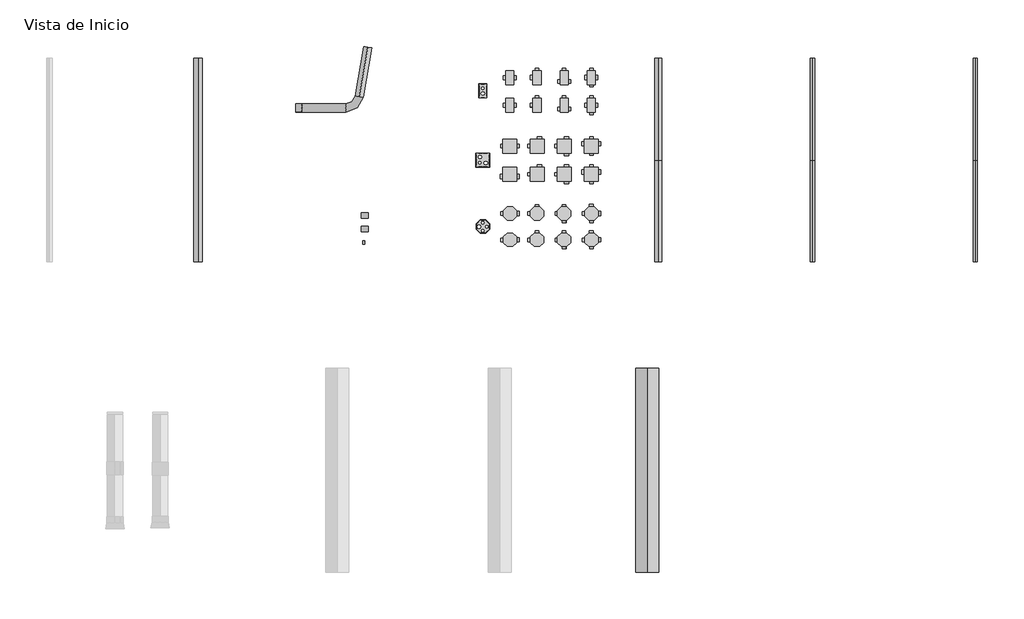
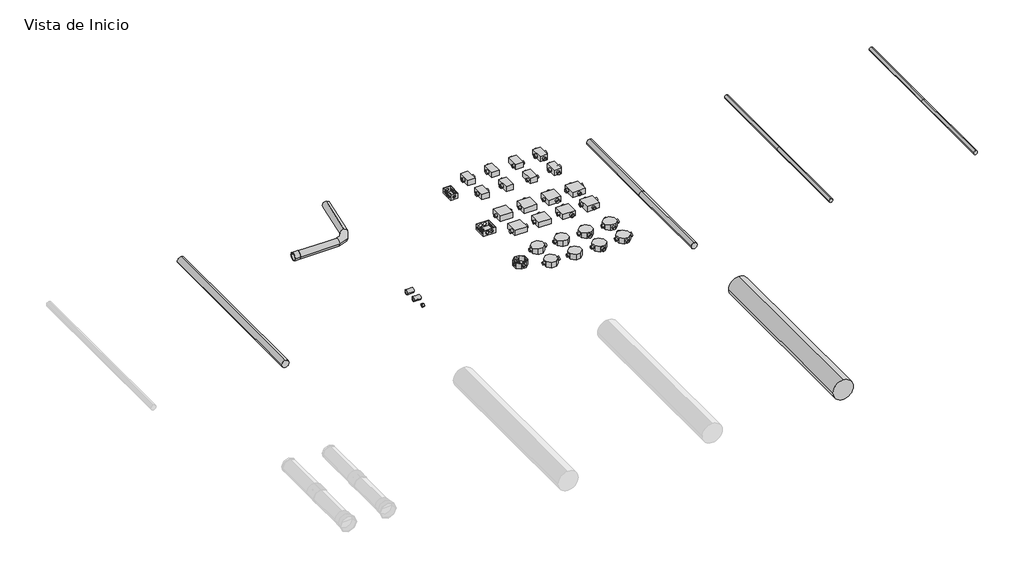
# One storey, part 2 of 2: 67 cable carrier fittings, 31 pipe fittings, 3 pipe segments, 2 cable carrier segments.
"""IFC4 building model written with IfcOpenShell, lengths in millimetres."""

from ifc_helpers import new_model, si_unit, point, frame, frame_2d, origin, place, context, project, spatial, circle_curve, trimmed, segment, composite_curve, outline, extrude, transform, mapped, element, save
from ifc_brep_helpers import plane_surface, cylinder_surface, advanced_brep
from components import sch40_a225065a, sch40_1c53443b, sch40_14fc688d, sch40_78924ee8, tl_b9d03b8a, sch40_e715ed77, sch40_e125807a, sch40_0bdad339, sch40_e9edfee1, sch40_529ea7d7, sch40_db8eccb7, sch40_516e4f61, sch40_2f5201ad, sch40_504ce7d9, sch40_9a32e9d7, tl_ba489bf2, tl_a7b347dc, tl_5f5f7a51, tl_10c20af0, tl_4cd5a705

model = new_model("IFC4")

# Units and contexts
model_context = context("Model", 3, world=origin())
ifc_project = project(units=[si_unit("LENGTHUNIT", "METRE", prefix="MILLI")], contexts=[model_context])

# Site, building, storey
site = spatial("IfcSite", under=ifc_project)
building = spatial("IfcBuilding", under=site)
storey = spatial("IfcBuildingStorey", under=building, Name="Vista de Inicio", Elevation=0.0)

# Cable carrier fittings
placement = place(None, origin())
sch40_shape = sch40_a225065a(model_context)
element("IfcCableCarrierFitting", 1, ObjectType="PavcoWavin_ConduitFittings_ZnoUsarAdaptadorTerminal : SCH40", at=placement, inside=storey, context=model_context, shape_type="MappedRepresentation", body=[
    mapped(sch40_shape, transform((6956.0403989, 2395.4875154, 0.0), x_axis=(-1.0, 0.0, 0.0), y_axis=(0.0, -1.0, 0.0), z_axis=(0.0, 0.0, 1.0))),
])
element("IfcCableCarrierFitting", 2, ObjectType="PavcoWavin_ConduitFittings_ZnoUsarAdaptadorTerminal : SCH40", at=placement, inside=storey, context=model_context, shape_type="MappedRepresentation", body=[
    mapped(sch40_shape, transform((7205.5403989, 2444.9875154, 0.0), x_axis=(0.0, 1.0, 0.0), y_axis=(-1.0, 0.0, 0.0), z_axis=(0.0, 0.0, 1.0))),
])
element("IfcCableCarrierFitting", 3, ObjectType="PavcoWavin_ConduitFittings_ZnoUsarAdaptadorTerminal : SCH40", at=placement, inside=storey, context=model_context, shape_type="MappedRepresentation", body=[
    mapped(sch40_shape, transform((7156.0403989, 2395.4875154, 0.0), x_axis=(-1.0, 0.0, 0.0), y_axis=(0.0, -1.0, 0.0), z_axis=(0.0, 0.0, 1.0))),
])
element("IfcCableCarrierFitting", 4, ObjectType="PavcoWavin_ConduitFittings_ZnoUsarAdaptadorTerminal : SCH40", at=placement, inside=storey, context=model_context, shape_type="MappedRepresentation", body=[
    mapped(sch40_shape, transform((7405.5403989, 2444.9875154, 0.0), x_axis=(0.0, 1.0, 0.0), y_axis=(-1.0, 0.0, 0.0), z_axis=(0.0, 0.0, 1.0))),
])
element("IfcCableCarrierFitting", 5, ObjectType="PavcoWavin_ConduitFittings_ZnoUsarAdaptadorTerminal : SCH40", at=placement, inside=storey, context=model_context, shape_type="MappedRepresentation", body=[
    mapped(sch40_shape, transform((7356.0403989, 2395.4875154, 0.0), x_axis=(-1.0, 0.0, 0.0), y_axis=(0.0, -1.0, 0.0), z_axis=(0.0, 0.0, 1.0))),
])
element("IfcCableCarrierFitting", 6, ObjectType="PavcoWavin_ConduitFittings_ZnoUsarAdaptadorTerminal : SCH40", at=placement, inside=storey, context=model_context, shape_type="MappedRepresentation", body=[
    mapped(sch40_shape, transform((7556.0403989, 2395.4875154, 0.0), x_axis=(-1.0, 0.0, 0.0), y_axis=(0.0, -1.0, 0.0), z_axis=(0.0, 0.0, 1.0))),
])
element("IfcCableCarrierFitting", 7, ObjectType="PavcoWavin_ConduitFittings_ZnoUsarAdaptadorTerminal : SCH40", at=placement, inside=storey, context=model_context, shape_type="MappedRepresentation", body=[
    mapped(sch40_shape, transform((7605.5403989, 2345.9875154, 0.0), x_axis=(0.0, -1.0, 0.0), y_axis=(1.0, 0.0, 0.0), z_axis=(0.0, 0.0, 1.0))),
])
element("IfcCableCarrierFitting", 8, ObjectType="PavcoWavin_ConduitFittings_ZnoUsarAdaptadorTerminal : SCH40", at=placement, inside=storey, context=model_context, shape_type="MappedRepresentation", body=[
    mapped(sch40_shape, transform((7153.9903989, 2892.7174318, 0.0), x_axis=(-1.0, 0.0, 0.0), y_axis=(0.0, -1.0, 0.0), z_axis=(0.0, 0.0, 1.0))),
])
element("IfcCableCarrierFitting", 9, ObjectType="PavcoWavin_ConduitFittings_ZnoUsarAdaptadorTerminal : SCH40", at=placement, inside=storey, context=model_context, shape_type="MappedRepresentation", body=[
    mapped(sch40_shape, transform((7353.9903989, 2892.7174318, 0.0), x_axis=(-1.0, 0.0, 0.0), y_axis=(0.0, -1.0, 0.0), z_axis=(0.0, 0.0, 1.0))),
])
element("IfcCableCarrierFitting", 10, ObjectType="PavcoWavin_ConduitFittings_ZnoUsarAdaptadorTerminal : SCH40", at=placement, inside=storey, context=model_context, shape_type="MappedRepresentation", body=[
    mapped(sch40_shape, transform((7605.5403989, 2841.1674318, 0.0), x_axis=(0.0, -1.0, 0.0), y_axis=(1.0, 0.0, 0.0), z_axis=(0.0, 0.0, 1.0))),
])
element("IfcCableCarrierFitting", 11, ObjectType="PavcoWavin_ConduitFittings_ZnoUsarAdaptadorTerminal : SCH40", at=placement, inside=storey, context=model_context, shape_type="MappedRepresentation", body=[
    mapped(sch40_shape, transform((7605.5403989, 2944.2674318, 0.0), x_axis=(0.0, 1.0, 0.0), y_axis=(-1.0, 0.0, 0.0), z_axis=(0.0, 0.0, 1.0))),
])
element("IfcCableCarrierFitting", 12, ObjectType="PavcoWavin_ConduitFittings_ZnoUsarAdaptadorTerminal : SCH40", at=placement, inside=storey, context=model_context, shape_type="MappedRepresentation", body=[
    mapped(sch40_shape, transform((7057.0903989, 2892.7174318, 0.0), x_axis=(1.0, 0.0, 0.0), y_axis=(0.0, 1.0, 0.0), z_axis=(0.0, 0.0, 1.0))),
])
element("IfcCableCarrierFitting", 13, ObjectType="PavcoWavin_ConduitFittings_ZnoUsarAdaptadorTerminal : SCH40", at=placement, inside=storey, context=model_context, shape_type="MappedRepresentation", body=[
    mapped(sch40_shape, transform((6953.9903989, 2892.7174318, 0.0), x_axis=(-1.0, 0.0, 0.0), y_axis=(0.0, -1.0, 0.0), z_axis=(0.0, 0.0, 1.0))),
])
element("IfcCableCarrierFitting", 14, ObjectType="PavcoWavin_ConduitFittings_ZnoUsarAdaptadorTerminal : SCH40", at=placement, inside=storey, context=model_context, shape_type="MappedRepresentation", body=[
    mapped(sch40_shape, transform((7405.5403989, 3449.0171975, 0.0), x_axis=(0.0, 1.0, 0.0), y_axis=(-1.0, 0.0, 0.0), z_axis=(0.0, 0.0, 1.0))),
])
element("IfcCableCarrierFitting", 15, ObjectType="PavcoWavin_ConduitFittings_ZnoUsarAdaptadorTerminal : SCH40", at=placement, inside=storey, context=model_context, shape_type="MappedRepresentation", body=[
    mapped(sch40_shape, transform((7435.5403989, 3369.5171975, 0.0), x_axis=(1.0, 0.0, 0.0), y_axis=(0.0, 1.0, 0.0), z_axis=(0.0, 0.0, 1.0))),
])
element("IfcCableCarrierFitting", 16, ObjectType="PavcoWavin_ConduitFittings_ZnoUsarAdaptadorTerminal : SCH40", at=placement, inside=storey, context=model_context, shape_type="MappedRepresentation", body=[
    mapped(sch40_shape, transform((7375.5403989, 3369.5171975, 0.0), x_axis=(-1.0, 0.0, 0.0), y_axis=(0.0, -1.0, 0.0), z_axis=(0.0, 0.0, 1.0))),
])
element("IfcCableCarrierFitting", 17, ObjectType="PavcoWavin_ConduitFittings_ZnoUsarAdaptadorTerminal : SCH40", at=placement, inside=storey, context=model_context, shape_type="MappedRepresentation", body=[
    mapped(sch40_shape, transform((7605.5403989, 3346.0171975, 0.0), x_axis=(0.0, -1.0, 0.0), y_axis=(1.0, 0.0, 0.0), z_axis=(0.0, 0.0, 1.0))),
])
element("IfcCableCarrierFitting", 18, ObjectType="PavcoWavin_ConduitFittings_ZnoUsarAdaptadorTerminal : SCH40", at=placement, inside=storey, context=model_context, shape_type="MappedRepresentation", body=[
    mapped(sch40_shape, transform((7605.5403989, 3449.0171975, 0.0), x_axis=(0.0, 1.0, 0.0), y_axis=(-1.0, 0.0, 0.0), z_axis=(0.0, 0.0, 1.0))),
])
sch40_2_shape = sch40_1c53443b(model_context)
element("IfcCableCarrierFitting", 19, ObjectType="PavcoWavin_ConduitFittings_ZnoUsarAdaptadorTerminal : SCH40", at=placement, inside=storey, context=model_context, shape_type="MappedRepresentation", body=[
    mapped(sch40_2_shape, transform((7055.0403989, 2395.4875154, 0.0), x_axis=(1.0, 0.0, 0.0), y_axis=(0.0, 1.0, 0.0), z_axis=(0.0, 0.0, 1.0))),
])
element("IfcCableCarrierFitting", 20, ObjectType="PavcoWavin_ConduitFittings_ZnoUsarAdaptadorTerminal : SCH40", at=placement, inside=storey, context=model_context, shape_type="MappedRepresentation", body=[
    mapped(sch40_2_shape, transform((7405.5403989, 2345.9875154, 0.0), x_axis=(0.0, -1.0, 0.0), y_axis=(1.0, 0.0, 0.0), z_axis=(0.0, 0.0, 1.0))),
])
element("IfcCableCarrierFitting", 21, ObjectType="PavcoWavin_ConduitFittings_ZnoUsarAdaptadorTerminal : SCH40", at=placement, inside=storey, context=model_context, shape_type="MappedRepresentation", body=[
    mapped(sch40_2_shape, transform((7655.0403989, 2395.4875154, 0.0), x_axis=(1.0, 0.0, 0.0), y_axis=(0.0, 1.0, 0.0), z_axis=(0.0, 0.0, 1.0))),
])
element("IfcCableCarrierFitting", 22, ObjectType="PavcoWavin_ConduitFittings_ZnoUsarAdaptadorTerminal : SCH40", at=placement, inside=storey, context=model_context, shape_type="MappedRepresentation", body=[
    mapped(sch40_2_shape, transform((7605.5403989, 2444.9875154, 0.0), x_axis=(0.0, 1.0, 0.0), y_axis=(-1.0, 0.0, 0.0), z_axis=(0.0, 0.0, 1.0))),
])
element("IfcCableCarrierFitting", 23, ObjectType="PavcoWavin_ConduitFittings_ZnoUsarAdaptadorTerminal : SCH40", at=placement, inside=storey, context=model_context, shape_type="MappedRepresentation", body=[
    mapped(sch40_2_shape, transform((7223.0403989, 2944.2674318, 0.0), x_axis=(0.0, 1.0, 0.0), y_axis=(-1.0, 0.0, 0.0), z_axis=(0.0, 0.0, 1.0))),
])
element("IfcCableCarrierFitting", 24, ObjectType="PavcoWavin_ConduitFittings_ZnoUsarAdaptadorTerminal : SCH40", at=placement, inside=storey, context=model_context, shape_type="MappedRepresentation", body=[
    mapped(sch40_2_shape, transform((7423.0403989, 2841.1674318, 0.0), x_axis=(0.0, -1.0, 0.0), y_axis=(1.0, 0.0, 0.0), z_axis=(0.0, 0.0, 1.0))),
])
element("IfcCableCarrierFitting", 25, ObjectType="PavcoWavin_ConduitFittings_ZnoUsarAdaptadorTerminal : SCH40", at=placement, inside=storey, context=model_context, shape_type="MappedRepresentation", body=[
    mapped(sch40_2_shape, transform((7423.0403989, 2944.2674318, 0.0), x_axis=(0.0, 1.0, 0.0), y_axis=(-1.0, 0.0, 0.0), z_axis=(0.0, 0.0, 1.0))),
])
element("IfcCableCarrierFitting", 26, ObjectType="PavcoWavin_ConduitFittings_ZnoUsarAdaptadorTerminal : SCH40", at=placement, inside=storey, context=model_context, shape_type="MappedRepresentation", body=[
    mapped(sch40_2_shape, transform((7657.0903989, 2910.2174318, 0.0), x_axis=(1.0, 0.0, 0.0), y_axis=(0.0, 1.0, 0.0), z_axis=(0.0, 0.0, 1.0))),
])
element("IfcCableCarrierFitting", 27, ObjectType="PavcoWavin_ConduitFittings_ZnoUsarAdaptadorTerminal : SCH40", at=placement, inside=storey, context=model_context, shape_type="MappedRepresentation", body=[
    mapped(sch40_2_shape, transform((7553.9903989, 2910.2174318, 0.0), x_axis=(-1.0, 0.0, 0.0), y_axis=(0.0, -1.0, 0.0), z_axis=(0.0, 0.0, 1.0))),
])
element("IfcCableCarrierFitting", 28, ObjectType="PavcoWavin_ConduitFittings_ZnoUsarAdaptadorTerminal : SCH40", at=placement, inside=storey, context=model_context, shape_type="MappedRepresentation", body=[
    mapped(sch40_2_shape, transform((7035.5403989, 3396.8674318, 0.0), x_axis=(1.0, 0.0, 0.0), y_axis=(0.0, 1.0, 0.0), z_axis=(0.0, 0.0, 1.0))),
])
element("IfcCableCarrierFitting", 29, ObjectType="PavcoWavin_ConduitFittings_ZnoUsarAdaptadorTerminal : SCH40", at=placement, inside=storey, context=model_context, shape_type="MappedRepresentation", body=[
    mapped(sch40_2_shape, transform((6975.5403989, 3396.8674318, 0.0), x_axis=(-1.0, 0.0, 0.0), y_axis=(0.0, -1.0, 0.0), z_axis=(0.0, 0.0, 1.0))),
])
element("IfcCableCarrierFitting", 30, ObjectType="PavcoWavin_ConduitFittings_ZnoUsarAdaptadorTerminal : SCH40", at=placement, inside=storey, context=model_context, shape_type="MappedRepresentation", body=[
    mapped(sch40_2_shape, transform((7635.5403989, 3397.5171975, 0.0), x_axis=(1.0, 0.0, 0.0), y_axis=(0.0, 1.0, 0.0), z_axis=(0.0, 0.0, 1.0))),
])
element("IfcCableCarrierFitting", 31, ObjectType="PavcoWavin_ConduitFittings_ZnoUsarAdaptadorTerminal : SCH40", at=placement, inside=storey, context=model_context, shape_type="MappedRepresentation", body=[
    mapped(sch40_2_shape, transform((7575.5403989, 3397.5171975, 0.0), x_axis=(-1.0, 0.0, 0.0), y_axis=(0.0, -1.0, 0.0), z_axis=(0.0, 0.0, 1.0))),
])
sch40_3_shape = sch40_14fc688d(model_context)
element("IfcCableCarrierFitting", 32, ObjectType="PavcoWavin_ConduitFittings_ZnoUsarAdaptadorTerminal : SCH40", at=placement, inside=storey, context=model_context, shape_type="MappedRepresentation", body=[
    mapped(sch40_3_shape, transform((7175.5403989, 3397.5171975, 0.0), x_axis=(-1.0, 0.0, 0.0), y_axis=(0.0, -1.0, 0.0), z_axis=(0.0, 0.0, 1.0))),
])
sch40_4_shape = sch40_78924ee8(model_context)
element("IfcCableCarrierFitting", 33, ObjectType="PavcoWavin_ConduitFittings_ZnoUsarAdaptadorTerminal : SCH40", at=placement, inside=storey, context=model_context, shape_type="MappedRepresentation", body=[
    mapped(sch40_4_shape, transform((7205.5403989, 3449.0171975, 0.0), x_axis=(0.0, 1.0, 0.0), y_axis=(-1.0, 0.0, 0.0), z_axis=(0.0, 0.0, 1.0))),
])
element("IfcCableCarrierFitting", 34, ObjectType="PavcoWavin_ConduitFittings_ZnoUsarAdaptadorTerminal : TL", at=placement, inside=storey, context=model_context, shape_type="MappedRepresentation", body=[
    mapped(sch40_shape, transform((6956.0403989, 2202.9237787, 0.0), x_axis=(-1.0, 0.0, 0.0), y_axis=(0.0, -1.0, 0.0), z_axis=(0.0, 0.0, 1.0))),
])
element("IfcCableCarrierFitting", 35, ObjectType="PavcoWavin_ConduitFittings_ZnoUsarAdaptadorTerminal : TL", at=placement, inside=storey, context=model_context, shape_type="MappedRepresentation", body=[
    mapped(sch40_shape, transform((7205.5403989, 2252.4237787, 0.0), x_axis=(0.0, 1.0, 0.0), y_axis=(-1.0, 0.0, 0.0), z_axis=(0.0, 0.0, 1.0))),
])
element("IfcCableCarrierFitting", 36, ObjectType="PavcoWavin_ConduitFittings_ZnoUsarAdaptadorTerminal : TL", at=placement, inside=storey, context=model_context, shape_type="MappedRepresentation", body=[
    mapped(sch40_shape, transform((7156.0403989, 2202.9237787, 0.0), x_axis=(-1.0, 0.0, 0.0), y_axis=(0.0, -1.0, 0.0), z_axis=(0.0, 0.0, 1.0))),
])
element("IfcCableCarrierFitting", 37, ObjectType="PavcoWavin_ConduitFittings_ZnoUsarAdaptadorTerminal : TL", at=placement, inside=storey, context=model_context, shape_type="MappedRepresentation", body=[
    mapped(sch40_shape, transform((7405.5403989, 2252.4237787, 0.0), x_axis=(0.0, 1.0, 0.0), y_axis=(-1.0, 0.0, 0.0), z_axis=(0.0, 0.0, 1.0))),
])
element("IfcCableCarrierFitting", 38, ObjectType="PavcoWavin_ConduitFittings_ZnoUsarAdaptadorTerminal : TL", at=placement, inside=storey, context=model_context, shape_type="MappedRepresentation", body=[
    mapped(sch40_shape, transform((7356.0403989, 2202.9237787, 0.0), x_axis=(-1.0, 0.0, 0.0), y_axis=(0.0, -1.0, 0.0), z_axis=(0.0, 0.0, 1.0))),
])
element("IfcCableCarrierFitting", 39, ObjectType="PavcoWavin_ConduitFittings_ZnoUsarAdaptadorTerminal : TL", at=placement, inside=storey, context=model_context, shape_type="MappedRepresentation", body=[
    mapped(sch40_shape, transform((7556.0403989, 2202.9237787, 0.0), x_axis=(-1.0, 0.0, 0.0), y_axis=(0.0, -1.0, 0.0), z_axis=(0.0, 0.0, 1.0))),
])
element("IfcCableCarrierFitting", 40, ObjectType="PavcoWavin_ConduitFittings_ZnoUsarAdaptadorTerminal : TL", at=placement, inside=storey, context=model_context, shape_type="MappedRepresentation", body=[
    mapped(sch40_shape, transform((7605.5403989, 2153.4237787, 0.0), x_axis=(0.0, -1.0, 0.0), y_axis=(1.0, 0.0, 0.0), z_axis=(0.0, 0.0, 1.0))),
])
element("IfcCableCarrierFitting", 41, ObjectType="PavcoWavin_ConduitFittings_ZnoUsarAdaptadorTerminal : TL", at=placement, inside=storey, context=model_context, shape_type="MappedRepresentation", body=[
    mapped(sch40_shape, transform((7153.9903989, 2685.4094925, 0.0), x_axis=(-1.0, 0.0, 0.0), y_axis=(0.0, -1.0, 0.0), z_axis=(0.0, 0.0, 1.0))),
])
element("IfcCableCarrierFitting", 42, ObjectType="PavcoWavin_ConduitFittings_ZnoUsarAdaptadorTerminal : TL", at=placement, inside=storey, context=model_context, shape_type="MappedRepresentation", body=[
    mapped(sch40_shape, transform((7353.9903989, 2685.4094925, 0.0), x_axis=(-1.0, 0.0, 0.0), y_axis=(0.0, -1.0, 0.0), z_axis=(0.0, 0.0, 1.0))),
])
element("IfcCableCarrierFitting", 43, ObjectType="PavcoWavin_ConduitFittings_ZnoUsarAdaptadorTerminal : TL", at=placement, inside=storey, context=model_context, shape_type="MappedRepresentation", body=[
    mapped(sch40_shape, transform((7605.5403989, 2633.8594925, 0.0), x_axis=(0.0, -1.0, 0.0), y_axis=(1.0, 0.0, 0.0), z_axis=(0.0, 0.0, 1.0))),
])
element("IfcCableCarrierFitting", 44, ObjectType="PavcoWavin_ConduitFittings_ZnoUsarAdaptadorTerminal : TL", at=placement, inside=storey, context=model_context, shape_type="MappedRepresentation", body=[
    mapped(sch40_shape, transform((7605.5403989, 2736.9594925, 0.0), x_axis=(0.0, 1.0, 0.0), y_axis=(-1.0, 0.0, 0.0), z_axis=(0.0, 0.0, 1.0))),
])
element("IfcCableCarrierFitting", 45, ObjectType="PavcoWavin_ConduitFittings_ZnoUsarAdaptadorTerminal : TL", at=placement, inside=storey, context=model_context, shape_type="MappedRepresentation", body=[
    mapped(sch40_shape, transform((7405.5403989, 3245.2693837, 0.0), x_axis=(0.0, 1.0, 0.0), y_axis=(-1.0, 0.0, 0.0), z_axis=(0.0, 0.0, 1.0))),
])
element("IfcCableCarrierFitting", 46, ObjectType="PavcoWavin_ConduitFittings_ZnoUsarAdaptadorTerminal : TL", at=placement, inside=storey, context=model_context, shape_type="MappedRepresentation", body=[
    mapped(sch40_shape, transform((7435.5403989, 3165.7693837, 0.0), x_axis=(1.0, 0.0, 0.0), y_axis=(0.0, 1.0, 0.0), z_axis=(0.0, 0.0, 1.0))),
])
element("IfcCableCarrierFitting", 47, ObjectType="PavcoWavin_ConduitFittings_ZnoUsarAdaptadorTerminal : TL", at=placement, inside=storey, context=model_context, shape_type="MappedRepresentation", body=[
    mapped(sch40_shape, transform((7375.5403989, 3165.7693837, 0.0), x_axis=(-1.0, 0.0, 0.0), y_axis=(0.0, -1.0, 0.0), z_axis=(0.0, 0.0, 1.0))),
])
element("IfcCableCarrierFitting", 48, ObjectType="PavcoWavin_ConduitFittings_ZnoUsarAdaptadorTerminal : TL", at=placement, inside=storey, context=model_context, shape_type="MappedRepresentation", body=[
    mapped(sch40_shape, transform((7605.5403989, 3142.2693837, 0.0), x_axis=(0.0, -1.0, 0.0), y_axis=(1.0, 0.0, 0.0), z_axis=(0.0, 0.0, 1.0))),
])
element("IfcCableCarrierFitting", 49, ObjectType="PavcoWavin_ConduitFittings_ZnoUsarAdaptadorTerminal : TL", at=placement, inside=storey, context=model_context, shape_type="MappedRepresentation", body=[
    mapped(sch40_shape, transform((7605.5403989, 3245.2693837, 0.0), x_axis=(0.0, 1.0, 0.0), y_axis=(-1.0, 0.0, 0.0), z_axis=(0.0, 0.0, 1.0))),
])
element("IfcCableCarrierFitting", 50, ObjectType="PavcoWavin_ConduitFittings_ZnoUsarAdaptadorTerminal : TL", at=placement, inside=storey, context=model_context, shape_type="MappedRepresentation", body=[
    mapped(sch40_2_shape, transform((7055.0403989, 2202.9237787, 0.0), x_axis=(1.0, 0.0, 0.0), y_axis=(0.0, 1.0, 0.0), z_axis=(0.0, 0.0, 1.0))),
])
element("IfcCableCarrierFitting", 51, ObjectType="PavcoWavin_ConduitFittings_ZnoUsarAdaptadorTerminal : TL", at=placement, inside=storey, context=model_context, shape_type="MappedRepresentation", body=[
    mapped(sch40_2_shape, transform((7405.5403989, 2153.4237787, 0.0), x_axis=(0.0, -1.0, 0.0), y_axis=(1.0, 0.0, 0.0), z_axis=(0.0, 0.0, 1.0))),
])
element("IfcCableCarrierFitting", 52, ObjectType="PavcoWavin_ConduitFittings_ZnoUsarAdaptadorTerminal : TL", at=placement, inside=storey, context=model_context, shape_type="MappedRepresentation", body=[
    mapped(sch40_2_shape, transform((7655.0403989, 2202.9237787, 0.0), x_axis=(1.0, 0.0, 0.0), y_axis=(0.0, 1.0, 0.0), z_axis=(0.0, 0.0, 1.0))),
])
element("IfcCableCarrierFitting", 53, ObjectType="PavcoWavin_ConduitFittings_ZnoUsarAdaptadorTerminal : TL", at=placement, inside=storey, context=model_context, shape_type="MappedRepresentation", body=[
    mapped(sch40_2_shape, transform((7605.5403989, 2252.4237787, 0.0), x_axis=(0.0, 1.0, 0.0), y_axis=(-1.0, 0.0, 0.0), z_axis=(0.0, 0.0, 1.0))),
])
element("IfcCableCarrierFitting", 54, ObjectType="PavcoWavin_ConduitFittings_ZnoUsarAdaptadorTerminal : TL", at=placement, inside=storey, context=model_context, shape_type="MappedRepresentation", body=[
    mapped(sch40_2_shape, transform((7223.0403989, 2736.9594925, 0.0), x_axis=(0.0, 1.0, 0.0), y_axis=(-1.0, 0.0, 0.0), z_axis=(0.0, 0.0, 1.0))),
])
element("IfcCableCarrierFitting", 55, ObjectType="PavcoWavin_ConduitFittings_ZnoUsarAdaptadorTerminal : TL", at=placement, inside=storey, context=model_context, shape_type="MappedRepresentation", body=[
    mapped(sch40_2_shape, transform((7423.0403989, 2633.8594925, 0.0), x_axis=(0.0, -1.0, 0.0), y_axis=(1.0, 0.0, 0.0), z_axis=(0.0, 0.0, 1.0))),
])
element("IfcCableCarrierFitting", 56, ObjectType="PavcoWavin_ConduitFittings_ZnoUsarAdaptadorTerminal : TL", at=placement, inside=storey, context=model_context, shape_type="MappedRepresentation", body=[
    mapped(sch40_2_shape, transform((7423.0403989, 2736.9594925, 0.0), x_axis=(0.0, 1.0, 0.0), y_axis=(-1.0, 0.0, 0.0), z_axis=(0.0, 0.0, 1.0))),
])
element("IfcCableCarrierFitting", 57, ObjectType="PavcoWavin_ConduitFittings_ZnoUsarAdaptadorTerminal : TL", at=placement, inside=storey, context=model_context, shape_type="MappedRepresentation", body=[
    mapped(sch40_2_shape, transform((7657.0903989, 2702.9094925, 0.0), x_axis=(1.0, 0.0, 0.0), y_axis=(0.0, 1.0, 0.0), z_axis=(0.0, 0.0, 1.0))),
])
element("IfcCableCarrierFitting", 58, ObjectType="PavcoWavin_ConduitFittings_ZnoUsarAdaptadorTerminal : TL", at=placement, inside=storey, context=model_context, shape_type="MappedRepresentation", body=[
    mapped(sch40_2_shape, transform((7553.9903989, 2702.9094925, 0.0), x_axis=(-1.0, 0.0, 0.0), y_axis=(0.0, -1.0, 0.0), z_axis=(0.0, 0.0, 1.0))),
])
element("IfcCableCarrierFitting", 59, ObjectType="PavcoWavin_ConduitFittings_ZnoUsarAdaptadorTerminal : TL", at=placement, inside=storey, context=model_context, shape_type="MappedRepresentation", body=[
    mapped(sch40_2_shape, transform((7057.0903989, 2667.9094925, 0.0), x_axis=(1.0, 0.0, 0.0), y_axis=(0.0, 1.0, 0.0), z_axis=(0.0, 0.0, 1.0))),
])
element("IfcCableCarrierFitting", 60, ObjectType="PavcoWavin_ConduitFittings_ZnoUsarAdaptadorTerminal : TL", at=placement, inside=storey, context=model_context, shape_type="MappedRepresentation", body=[
    mapped(sch40_2_shape, transform((6953.9903989, 2667.9094925, 0.0), x_axis=(-1.0, 0.0, 0.0), y_axis=(0.0, -1.0, 0.0), z_axis=(0.0, 0.0, 1.0))),
])
element("IfcCableCarrierFitting", 61, ObjectType="PavcoWavin_ConduitFittings_ZnoUsarAdaptadorTerminal : TL", at=placement, inside=storey, context=model_context, shape_type="MappedRepresentation", body=[
    mapped(sch40_2_shape, transform((7035.5403989, 3193.7693837, 0.0), x_axis=(1.0, 0.0, 0.0), y_axis=(0.0, 1.0, 0.0), z_axis=(0.0, 0.0, 1.0))),
])
element("IfcCableCarrierFitting", 62, ObjectType="PavcoWavin_ConduitFittings_ZnoUsarAdaptadorTerminal : TL", at=placement, inside=storey, context=model_context, shape_type="MappedRepresentation", body=[
    mapped(sch40_2_shape, transform((6975.5403989, 3193.7693837, 0.0), x_axis=(-1.0, 0.0, 0.0), y_axis=(0.0, -1.0, 0.0), z_axis=(0.0, 0.0, 1.0))),
])
element("IfcCableCarrierFitting", 63, ObjectType="PavcoWavin_ConduitFittings_ZnoUsarAdaptadorTerminal : TL", at=placement, inside=storey, context=model_context, shape_type="MappedRepresentation", body=[
    mapped(sch40_2_shape, transform((7635.5403989, 3193.7693837, 0.0), x_axis=(1.0, 0.0, 0.0), y_axis=(0.0, 1.0, 0.0), z_axis=(0.0, 0.0, 1.0))),
])
element("IfcCableCarrierFitting", 64, ObjectType="PavcoWavin_ConduitFittings_ZnoUsarAdaptadorTerminal : TL", at=placement, inside=storey, context=model_context, shape_type="MappedRepresentation", body=[
    mapped(sch40_2_shape, transform((7575.5403989, 3193.7693837, 0.0), x_axis=(-1.0, 0.0, 0.0), y_axis=(0.0, -1.0, 0.0), z_axis=(0.0, 0.0, 1.0))),
])
tl_shape = tl_b9d03b8a(model_context)
element("IfcCableCarrierFitting", 65, ObjectType="PavcoWavin_ConduitFittings_ZnoUsarCampana : TL", at=placement, inside=storey, context=model_context, shape_type="MappedRepresentation", body=[
    mapped(tl_shape, transform((5472.4097411, 3173.821567, 0.0), x_axis=(1.0, 0.0, 0.0), y_axis=(0.0, 1.0, 0.0), z_axis=(0.0, 0.0, 1.0))),
])
element("IfcCableCarrierFitting", 66, ObjectType="PavcoWavin_ConduitFittings_ZnoUsarAdaptadorTerminal : TL", at=placement, inside=storey, context=model_context, shape_type="MappedRepresentation", body=[
    mapped(sch40_3_shape, transform((7175.5403989, 3193.7693837, 0.0), x_axis=(-1.0, 0.0, 0.0), y_axis=(0.0, -1.0, 0.0), z_axis=(0.0, 0.0, 1.0))),
])
element("IfcCableCarrierFitting", 67, ObjectType="PavcoWavin_ConduitFittings_ZnoUsarAdaptadorTerminal : TL", at=placement, inside=storey, context=model_context, shape_type="MappedRepresentation", body=[
    mapped(sch40_4_shape, transform((7205.5403989, 3245.2693837, 0.0), x_axis=(0.0, 1.0, 0.0), y_axis=(-1.0, 0.0, 0.0), z_axis=(0.0, 0.0, 1.0))),
])

# Cable carrier segments
element("IfcCableCarrierSegment", 68, ObjectType="PavcoWavin_Tubos_Conduit+SCH40_de½\"a2\"(3m)", at=placement, inside=storey, context=model_context, shape_type="SweptSolid", body=[
    extrude(outline(composite_curve([segment(trimmed(circle_curve(frame_2d((0.0, 4708.5125881)), 30.1625), [point((0.0, 4678.3500881))], [point((-30.1625, 4708.5125881))], False, "CARTESIAN"), True, "CONTINUOUS"), segment(trimmed(circle_curve(frame_2d((0.0, 4708.5125881)), 30.1625), [point((-30.1625, 4708.5125881))], [point((0.0, 4738.6750881))], False, "CARTESIAN"), True, "CONTINUOUS"), segment(trimmed(circle_curve(frame_2d((0.0, 4708.5125881)), 30.1625), [point((0.0, 4738.6750881))], [point((30.1625, 4708.5125881))], False, "CARTESIAN"), True, "CONTINUOUS"), segment(trimmed(circle_curve(frame_2d((0.0, 4708.5125881)), 30.1625), [point((30.1625, 4708.5125881))], [point((0.0, 4678.3500881))], False, "CARTESIAN"), True, "CONTINUOUS")], self_intersect=False)), frame((0.0, 2039.335304, 0.0), z_axis=(0.0, 1.0, 0.0), x_axis=(0.0, 0.0, 1.0)), (0.0, 0.0, 1.0), 1500.0),
])
element("IfcCableCarrierSegment", 69, ObjectType="PavcoWavin_Tubos_DuctoTDP_de3\"a6\"(6m)", at=placement, inside=storey, context=model_context, shape_type="SweptSolid", body=[
    extrude(outline(composite_curve([segment(trimmed(circle_curve(frame_2d((0.0, 8016.2094631)), 84.1375), [point((0.0, 7932.0719631))], [point((-84.1375, 8016.2094631))], False, "CARTESIAN"), True, "CONTINUOUS"), segment(trimmed(circle_curve(frame_2d((0.0, 8016.2094631)), 84.1375), [point((-84.1375, 8016.2094631))], [point((0.0, 8100.3469631))], False, "CARTESIAN"), True, "CONTINUOUS"), segment(trimmed(circle_curve(frame_2d((0.0, 8016.2094631)), 84.1375), [point((0.0, 8100.3469631))], [point((84.1375, 8016.2094631))], False, "CARTESIAN"), True, "CONTINUOUS"), segment(trimmed(circle_curve(frame_2d((0.0, 8016.2094631)), 84.1375), [point((84.1375, 8016.2094631))], [point((0.0, 7932.0719631))], False, "CARTESIAN"), True, "CONTINUOUS")], self_intersect=False)), frame((0.0, -244.6930356, 0.0), z_axis=(0.0, 1.0, 0.0), x_axis=(0.0, 0.0, 1.0)), (0.0, 0.0, 1.0), 1500.0),
])

# Pipe fittings
sch40_5_shape = sch40_e715ed77(model_context)
element("IfcPipeFitting", 70, ObjectType="PavcoWavin_PipeFittings_AdaptadorTerminal_Union : SCH40", at=placement, inside=storey, context=model_context, shape_type="MappedRepresentation", body=[
    mapped(sch40_5_shape, transform((5936.9004222, 2181.3199499, 0.0), x_axis=(1.0, 0.0, 0.0), y_axis=(0.0, 1.0, 0.0), z_axis=(0.0, 0.0, 1.0))),
])
sch40_6_shape = sch40_e125807a(model_context)
element("IfcPipeFitting", 71, ObjectType="PavcoWavin_PipeFittings_CajaDoble_Codo : SCH40", at=placement, inside=storey, context=model_context, shape_type="MappedRepresentation", body=[
    mapped(sch40_6_shape, transform((7223.0403989, 2892.7174318, 0.0), x_axis=(1.0, 0.0, 0.0), y_axis=(0.0, 1.0, 0.0), z_axis=(0.0, 0.0, 1.0))),
])
sch40_7_shape = sch40_0bdad339(model_context)
element("IfcPipeFitting", 72, ObjectType="PavcoWavin_PipeFittings_CajaDoble_Cruz : SCH40", at=placement, inside=storey, context=model_context, shape_type="MappedRepresentation", body=[
    mapped(sch40_7_shape, transform((7605.5403989, 2910.2174318, 0.0), x_axis=(1.0, 0.0, 0.0), y_axis=(0.0, 1.0, 0.0), z_axis=(0.0, 0.0, 1.0))),
])
element("IfcPipeFitting", 73, ObjectType="PavcoWavin_PipeFittings_CajaDoble_Tee : SCH40", at=placement, inside=storey, context=model_context, shape_type="MappedRepresentation", body=[
    mapped(sch40_7_shape, transform((7423.0403989, 2892.7174318, 0.0), x_axis=(0.0, -1.0, 0.0), y_axis=(1.0, 0.0, 0.0), z_axis=(0.0, 0.0, 1.0))),
])
sch40_8_shape = sch40_e9edfee1(model_context)
element("IfcPipeFitting", 74, ObjectType="PavcoWavin_PipeFittings_CajaDoble_Union : SCH40", at=placement, inside=storey, context=model_context, shape_type="MappedRepresentation", body=[
    mapped(sch40_8_shape, transform((7005.5403989, 2892.7174318, 0.0), x_axis=(1.0, 0.0, 0.0), y_axis=(0.0, 1.0, 0.0), z_axis=(0.0, 0.0, 1.0))),
])
sch40_9_shape = sch40_529ea7d7(model_context)
element("IfcPipeFitting", 75, ObjectType="PavcoWavin_PipeFittings_CajaOctagonal_Codo : SCH40", at=placement, inside=storey, context=model_context, shape_type="MappedRepresentation", body=[
    mapped(sch40_9_shape, transform((7205.5403989, 2395.4875154, 0.0), x_axis=(1.0, 0.0, 0.0), y_axis=(0.0, 1.0, 0.0), z_axis=(0.0, 0.0, 1.0))),
])
element("IfcPipeFitting", 76, ObjectType="PavcoWavin_PipeFittings_CajaOctagonal_Cruz : SCH40", at=placement, inside=storey, context=model_context, shape_type="MappedRepresentation", body=[
    mapped(sch40_9_shape, transform((7605.5403989, 2395.4875154, 0.0), x_axis=(1.0, 0.0, 0.0), y_axis=(0.0, 1.0, 0.0), z_axis=(0.0, 0.0, 1.0))),
])
element("IfcPipeFitting", 77, ObjectType="PavcoWavin_PipeFittings_CajaOctagonal_Tee : SCH40", at=placement, inside=storey, context=model_context, shape_type="MappedRepresentation", body=[
    mapped(sch40_9_shape, transform((7405.5403989, 2395.4875154, 0.0), x_axis=(0.0, -1.0, 0.0), y_axis=(1.0, 0.0, 0.0), z_axis=(0.0, 0.0, 1.0))),
])
sch40_10_shape = sch40_db8eccb7(model_context)
element("IfcPipeFitting", 78, ObjectType="PavcoWavin_PipeFittings_CajaSencilla_Cruz : SCH40", at=placement, inside=storey, context=model_context, shape_type="MappedRepresentation", body=[
    mapped(sch40_10_shape, transform((7605.5403989, 3397.5171975, 0.0), x_axis=(0.0, 1.0, 0.0), y_axis=(-1.0, 0.0, 0.0), z_axis=(0.0, 0.0, 1.0))),
])
sch40_11_shape = sch40_516e4f61(model_context)
element("IfcPipeFitting", 79, ObjectType="PavcoWavin_PipeFittings_Union : SCH40", at=placement, inside=storey, context=model_context, shape_type="MappedRepresentation", body=[
    mapped(sch40_11_shape, transform((5936.9004222, 2281.3199499, 0.0), x_axis=(1.0, 0.0, 0.0), y_axis=(0.0, 1.0, 0.0), z_axis=(0.0, 0.0, 1.0))),
])
element("IfcPipeFitting", 80, ObjectType="PavcoWavin_PipeFittings_CajaOctagonal_Transicion : SCH40", at=placement, inside=storey, context=model_context, shape_type="MappedRepresentation", body=[
    mapped(sch40_9_shape, transform((7005.5403989, 2395.4875154, 0.0), x_axis=(-1.0, 0.0, 0.0), y_axis=(0.0, -1.0, 0.0), z_axis=(0.0, 0.0, 1.0))),
])
sch40_12_shape = sch40_2f5201ad(model_context)
element("IfcPipeFitting", 81, ObjectType="PavcoWavin_PipeFittings_CajaSencilla_Union : SCH40", at=placement, inside=storey, context=model_context, shape_type="MappedRepresentation", body=[
    mapped(sch40_12_shape, transform((7005.5403989, 3396.8674318, 0.0), x_axis=(1.0, 0.0, 0.0), y_axis=(0.0, 1.0, 0.0), z_axis=(0.0, 0.0, 1.0))),
])
sch40_13_shape = sch40_504ce7d9(model_context)
element("IfcPipeFitting", 82, ObjectType="PavcoWavin_PipeFittings_CajaSencilla_Codo : SCH40", at=placement, inside=storey, context=model_context, shape_type="MappedRepresentation", body=[
    mapped(sch40_13_shape, transform((7205.5403989, 3397.5171975, 0.0), x_axis=(0.0, -1.0, 0.0), y_axis=(1.0, 0.0, 0.0), z_axis=(0.0, 0.0, 1.0))),
])
sch40_14_shape = sch40_9a32e9d7(model_context)
element("IfcPipeFitting", 83, ObjectType="PavcoWavin_PipeFittings_CajaSencilla_Tee : SCH40", at=placement, inside=storey, context=model_context, shape_type="MappedRepresentation", body=[
    mapped(sch40_14_shape, transform((7405.5403989, 3369.5171975, 0.0), x_axis=(-1.0, 0.0, 0.0), y_axis=(0.0, -1.0, 0.0), z_axis=(0.0, 0.0, 1.0))),
])
element("IfcPipeFitting", 84, ObjectType="PavcoWavin_PipeFittings_CajaDoble_Codo : TL", at=placement, inside=storey, context=model_context, shape_type="MappedRepresentation", body=[
    mapped(sch40_6_shape, transform((7223.0403989, 2685.4094925, 0.0), x_axis=(1.0, 0.0, 0.0), y_axis=(0.0, 1.0, 0.0), z_axis=(0.0, 0.0, 1.0))),
])
element("IfcPipeFitting", 85, ObjectType="PavcoWavin_PipeFittings_CajaDoble_Cruz : TL", at=placement, inside=storey, context=model_context, shape_type="MappedRepresentation", body=[
    mapped(sch40_7_shape, transform((7605.5403989, 2702.9094925, 0.0), x_axis=(1.0, 0.0, 0.0), y_axis=(0.0, 1.0, 0.0), z_axis=(0.0, 0.0, 1.0))),
])
tl_2_shape = tl_ba489bf2(model_context)
element("IfcPipeFitting", 86, ObjectType="PavcoWavin_PipeFittings_CajaDoble_Multipuerto : TL", at=placement, inside=storey, context=model_context, shape_type="MappedRepresentation", body=[
    mapped(tl_2_shape, transform((6806.4754026, 2790.2624699, 0.0), x_axis=(1.0, 0.0, 0.0), y_axis=(0.0, 1.0, 0.0), z_axis=(0.0, 0.0, 1.0))),
])
element("IfcPipeFitting", 87, ObjectType="PavcoWavin_PipeFittings_CajaDoble_Tee : TL", at=placement, inside=storey, context=model_context, shape_type="MappedRepresentation", body=[
    mapped(sch40_7_shape, transform((7423.0403989, 2685.4094925, 0.0), x_axis=(0.0, -1.0, 0.0), y_axis=(1.0, 0.0, 0.0), z_axis=(0.0, 0.0, 1.0))),
])
element("IfcPipeFitting", 88, ObjectType="PavcoWavin_PipeFittings_CajaOctagonal_Codo : TL", at=placement, inside=storey, context=model_context, shape_type="MappedRepresentation", body=[
    mapped(sch40_9_shape, transform((7205.5403989, 2202.9237787, 0.0), x_axis=(1.0, 0.0, 0.0), y_axis=(0.0, 1.0, 0.0), z_axis=(0.0, 0.0, 1.0))),
])
element("IfcPipeFitting", 89, ObjectType="PavcoWavin_PipeFittings_CajaOctagonal_Cruz : TL", at=placement, inside=storey, context=model_context, shape_type="MappedRepresentation", body=[
    mapped(sch40_9_shape, transform((7605.5403989, 2202.9237787, 0.0), x_axis=(1.0, 0.0, 0.0), y_axis=(0.0, 1.0, 0.0), z_axis=(0.0, 0.0, 1.0))),
])
tl_3_shape = tl_a7b347dc(model_context)
element("IfcPipeFitting", 90, ObjectType="PavcoWavin_PipeFittings_CajaOctagonal_Multipuerto : TL", at=placement, inside=storey, context=model_context, shape_type="MappedRepresentation", body=[
    mapped(tl_3_shape, transform((6806.4754026, 2299.205647, 0.0), x_axis=(1.0, 0.0, 0.0), y_axis=(0.0, 1.0, 0.0), z_axis=(0.0, 0.0, 1.0))),
])
element("IfcPipeFitting", 91, ObjectType="PavcoWavin_PipeFittings_CajaOctagonal_Tee : TL", at=placement, inside=storey, context=model_context, shape_type="MappedRepresentation", body=[
    mapped(sch40_9_shape, transform((7405.5403989, 2202.9237787, 0.0), x_axis=(0.0, -1.0, 0.0), y_axis=(1.0, 0.0, 0.0), z_axis=(0.0, 0.0, 1.0))),
])
element("IfcPipeFitting", 92, ObjectType="PavcoWavin_PipeFittings_CajaSencilla_Cruz : TL", at=placement, inside=storey, context=model_context, shape_type="MappedRepresentation", body=[
    mapped(sch40_10_shape, transform((7605.5403989, 3193.7693837, 0.0), x_axis=(0.0, 1.0, 0.0), y_axis=(-1.0, 0.0, 0.0), z_axis=(0.0, 0.0, 1.0))),
])
tl_4_shape = tl_5f5f7a51(model_context)
element("IfcPipeFitting", 93, ObjectType="PavcoWavin_PipeFittings_CajaSencilla_Multipuerto : TL", at=placement, inside=storey, context=model_context, shape_type="MappedRepresentation", body=[
    mapped(tl_4_shape, transform((6806.4754026, 3298.9939293, 0.0), x_axis=(0.0, 1.0, 0.0), y_axis=(-1.0, 0.0, 0.0), z_axis=(0.0, 0.0, 1.0))),
])
element("IfcPipeFitting", 94, ObjectType="PavcoWavin_PipeFittings_Union : TL", at=placement, inside=storey, context=model_context, shape_type="MappedRepresentation", body=[
    mapped(sch40_11_shape, transform((5936.9004222, 2381.3199499, 0.0), x_axis=(1.0, 0.0, 0.0), y_axis=(0.0, 1.0, 0.0), z_axis=(0.0, 0.0, 1.0))),
])
tl_5_shape = tl_10c20af0(model_context)
element("IfcPipeFitting", 95, ObjectType="PavcoWavin_PipeFittings_Curva : TL", at=placement, inside=storey, context=model_context, shape_type="MappedRepresentation", body=[
    mapped(tl_5_shape, transform((5881.3197042, 3173.821567, 0.0), x_axis=(1.0, 0.0, 0.0), y_axis=(0.0, 1.0, 0.0), z_axis=(0.0, 0.0, 1.0))),
])
element("IfcPipeFitting", 96, ObjectType="PavcoWavin_PipeFittings_CajaOctagonal_Transicion : TL", at=placement, inside=storey, context=model_context, shape_type="MappedRepresentation", body=[
    mapped(sch40_9_shape, transform((7005.5403989, 2202.9237787, 0.0), x_axis=(-1.0, 0.0, 0.0), y_axis=(0.0, -1.0, 0.0), z_axis=(0.0, 0.0, 1.0))),
])
tl_6_shape = tl_4cd5a705(model_context)
element("IfcPipeFitting", 97, ObjectType="PavcoWavin_PipeFittings_CajaDoble_Union : TL", at=placement, inside=storey, context=model_context, shape_type="MappedRepresentation", body=[
    mapped(tl_6_shape, transform((7005.5403989, 2667.9094925, 0.0), x_axis=(1.0, 0.0, 0.0), y_axis=(0.0, 1.0, 0.0), z_axis=(0.0, 0.0, 1.0))),
])
element("IfcPipeFitting", 98, ObjectType="PavcoWavin_PipeFittings_CajaSencilla_Union : TL", at=placement, inside=storey, context=model_context, shape_type="MappedRepresentation", body=[
    mapped(sch40_12_shape, transform((7005.5403989, 3193.7693837, 0.0), x_axis=(1.0, 0.0, 0.0), y_axis=(0.0, 1.0, 0.0), z_axis=(0.0, 0.0, 1.0))),
])
element("IfcPipeFitting", 99, ObjectType="PavcoWavin_PipeFittings_CajaSencilla_Codo : TL", at=placement, inside=storey, context=model_context, shape_type="MappedRepresentation", body=[
    mapped(sch40_13_shape, transform((7205.5403989, 3193.7693837, 0.0), x_axis=(0.0, -1.0, 0.0), y_axis=(1.0, 0.0, 0.0), z_axis=(0.0, 0.0, 1.0))),
])
element("IfcPipeFitting", 100, ObjectType="PavcoWavin_PipeFittings_CajaSencilla_Tee : TL", at=placement, inside=storey, context=model_context, shape_type="MappedRepresentation", body=[
    mapped(sch40_14_shape, transform((7405.5403989, 3165.7693837, 0.0), x_axis=(-1.0, 0.0, 0.0), y_axis=(0.0, -1.0, 0.0), z_axis=(0.0, 0.0, 1.0))),
])

# Pipe segments
element("IfcPipeSegment", 101, ObjectType="PavcoWavin_Tubos_ConduitTL_de½\"a2\"(3m)", at=placement, inside=storey, context=model_context, shape_type="AdvancedBrep", body=[
    advanced_brep(
    [(8124.0793352, 3539.335304, -150.0), (8098.6793352, 3539.335304, -175.4), (8073.2793352, 3539.335304, -150.0), (8098.6793352, 3539.335304, -124.6), (8124.0793352, 2789.335304, -150.0), (8098.6793352, 2789.335304, -175.4), (8073.2793352, 2789.335304, -150.0), (8098.6793352, 2789.335304, -124.6), (8124.0793352, 2039.335304, -150.0), (8098.6793352, 2039.335304, -124.6), (8073.2793352, 2039.335304, -150.0), (8098.6793352, 2039.335304, -175.4)],
    [
        (0, 1, circle_curve(frame((8098.6793352, 3539.335304, -150.0), z_axis=(0.0, 1.0, 0.0), x_axis=(1.0, 0.0, 0.0)), 25.4)),
        (1, 2, circle_curve(frame((8098.6793352, 3539.335304, -150.0), z_axis=(0.0, 1.0, 0.0), x_axis=(1.0, 0.0, 0.0)), 25.4)),
        (2, 3, circle_curve(frame((8098.6793352, 3539.335304, -150.0), z_axis=(0.0, 1.0, 0.0), x_axis=(1.0, 0.0, 0.0)), 25.4)),
        (3, 0, circle_curve(frame((8098.6793352, 3539.335304, -150.0), z_axis=(0.0, 1.0, 0.0), x_axis=(1.0, 0.0, 0.0)), 25.4)),
        (0, 4),
        (4, 5, circle_curve(frame((8098.6793352, 2789.335304, -150.0), z_axis=(0.0, 1.0, 0.0), x_axis=(1.0, 0.0, 0.0)), 25.4)),
        (5, 1),
        (5, 6, circle_curve(frame((8098.6793352, 2789.335304, -150.0), z_axis=(0.0, 1.0, 0.0), x_axis=(1.0, 0.0, 0.0)), 25.4)),
        (6, 2),
        (6, 7, circle_curve(frame((8098.6793352, 2789.335304, -150.0), z_axis=(0.0, 1.0, 0.0), x_axis=(1.0, 0.0, 0.0)), 25.4)),
        (7, 3),
        (7, 4, circle_curve(frame((8098.6793352, 2789.335304, -150.0), z_axis=(0.0, 1.0, 0.0), x_axis=(1.0, 0.0, 0.0)), 25.4)),
        (8, 9, circle_curve(frame((8098.6793352, 2039.335304, -150.0), z_axis=(0.0, -1.0, 0.0), x_axis=(1.0, 0.0, 0.0)), 25.4)),
        (9, 10, circle_curve(frame((8098.6793352, 2039.335304, -150.0), z_axis=(0.0, -1.0, 0.0), x_axis=(1.0, 0.0, 0.0)), 25.4)),
        (10, 11, circle_curve(frame((8098.6793352, 2039.335304, -150.0), z_axis=(0.0, -1.0, 0.0), x_axis=(1.0, 0.0, 0.0)), 25.4)),
        (11, 8, circle_curve(frame((8098.6793352, 2039.335304, -150.0), z_axis=(0.0, -1.0, 0.0), x_axis=(1.0, 0.0, 0.0)), 25.4)),
        (4, 8),
        (11, 5),
        (10, 6),
        (9, 7),
    ],
    [
        plane_surface(frame((8073.2793352, 3539.335304, -150.0), z_axis=(0.0, 1.0, 0.0), x_axis=(0.0, 0.0, -1.0))),
        cylinder_surface(frame((8098.6793352, 3539.335304, -150.0), z_axis=(0.0, 1.0, 0.0), x_axis=(1.0, 0.0, 0.0)), 25.4),
        plane_surface(frame((8073.2793352, 2039.335304, -150.0), z_axis=(0.0, -1.0, 0.0), x_axis=(0.0, 0.0, -1.0))),
        cylinder_surface(frame((8098.6793352, 2789.335304, -150.0), z_axis=(0.0, 1.0, 0.0), x_axis=(1.0, 0.0, 0.0)), 25.4),
    ],
    [
        (0, [[1, 2, 3, 4]]),
        (1, [[-1, 5, 6, 7]]),
        (1, [[-2, -7, 8, 9]]),
        (1, [[-3, -9, 10, 11]]),
        (1, [[-4, -11, 12, -5]]),
        (2, [[13, 14, 15, 16]]),
        (3, [[-6, 17, -16, 18]]),
        (3, [[-8, -18, -15, 19]]),
        (3, [[-10, -19, -14, 20]]),
        (3, [[-12, -20, -13, -17]]),
    ],
),
])
element("IfcPipeSegment", 102, ObjectType="PavcoWavin_Tubos_Conduit+SCH40_de½\"a2\"(3m)", at=placement, inside=storey, context=model_context, shape_type="AdvancedBrep", body=[
    advanced_brep(
    [(9249.6178669, 3539.335304, -150.0), (9233.7428669, 3539.335304, -165.875), (9217.8678669, 3539.335304, -150.0), (9233.7428669, 3539.335304, -134.125), (9249.6178669, 2789.335304, -150.0), (9233.7428669, 2789.335304, -165.875), (9217.8678669, 2789.335304, -150.0), (9233.7428669, 2789.335304, -134.125), (9249.6178669, 2039.335304, -150.0), (9233.7428669, 2039.335304, -134.125), (9217.8678669, 2039.335304, -150.0), (9233.7428669, 2039.335304, -165.875)],
    [
        (0, 1, circle_curve(frame((9233.7428669, 3539.335304, -150.0), z_axis=(0.0, 1.0, 0.0), x_axis=(1.0, 0.0, 0.0)), 15.875)),
        (1, 2, circle_curve(frame((9233.7428669, 3539.335304, -150.0), z_axis=(0.0, 1.0, 0.0), x_axis=(1.0, 0.0, 0.0)), 15.875)),
        (2, 3, circle_curve(frame((9233.7428669, 3539.335304, -150.0), z_axis=(0.0, 1.0, 0.0), x_axis=(1.0, 0.0, 0.0)), 15.875)),
        (3, 0, circle_curve(frame((9233.7428669, 3539.335304, -150.0), z_axis=(0.0, 1.0, 0.0), x_axis=(1.0, 0.0, 0.0)), 15.875)),
        (0, 4),
        (4, 5, circle_curve(frame((9233.7428669, 2789.335304, -150.0), z_axis=(0.0, 1.0, 0.0), x_axis=(1.0, 0.0, 0.0)), 15.875)),
        (5, 1),
        (5, 6, circle_curve(frame((9233.7428669, 2789.335304, -150.0), z_axis=(0.0, 1.0, 0.0), x_axis=(1.0, 0.0, 0.0)), 15.875)),
        (6, 2),
        (6, 7, circle_curve(frame((9233.7428669, 2789.335304, -150.0), z_axis=(0.0, 1.0, 0.0), x_axis=(1.0, 0.0, 0.0)), 15.875)),
        (7, 3),
        (7, 4, circle_curve(frame((9233.7428669, 2789.335304, -150.0), z_axis=(0.0, 1.0, 0.0), x_axis=(1.0, 0.0, 0.0)), 15.875)),
        (8, 9, circle_curve(frame((9233.7428669, 2039.335304, -150.0), z_axis=(0.0, -1.0, 0.0), x_axis=(1.0, 0.0, 0.0)), 15.875)),
        (9, 10, circle_curve(frame((9233.7428669, 2039.335304, -150.0), z_axis=(0.0, -1.0, 0.0), x_axis=(1.0, 0.0, 0.0)), 15.875)),
        (10, 11, circle_curve(frame((9233.7428669, 2039.335304, -150.0), z_axis=(0.0, -1.0, 0.0), x_axis=(1.0, 0.0, 0.0)), 15.875)),
        (11, 8, circle_curve(frame((9233.7428669, 2039.335304, -150.0), z_axis=(0.0, -1.0, 0.0), x_axis=(1.0, 0.0, 0.0)), 15.875)),
        (4, 8),
        (11, 5),
        (10, 6),
        (9, 7),
    ],
    [
        plane_surface(frame((9217.8678669, 3539.335304, -150.0), z_axis=(0.0, 1.0, 0.0), x_axis=(0.0, 0.0, -1.0))),
        cylinder_surface(frame((9233.7428669, 3539.335304, -150.0), z_axis=(0.0, 1.0, 0.0), x_axis=(1.0, 0.0, 0.0)), 15.875),
        plane_surface(frame((9217.8678669, 2039.335304, -150.0), z_axis=(0.0, -1.0, 0.0), x_axis=(0.0, 0.0, -1.0))),
        cylinder_surface(frame((9233.7428669, 2789.335304, -150.0), z_axis=(0.0, 1.0, 0.0), x_axis=(1.0, 0.0, 0.0)), 15.875),
    ],
    [
        (0, [[1, 2, 3, 4]]),
        (1, [[-1, 5, 6, 7]]),
        (1, [[-2, -7, 8, 9]]),
        (1, [[-3, -9, 10, 11]]),
        (1, [[-4, -11, 12, -5]]),
        (2, [[13, 14, 15, 16]]),
        (3, [[-6, 17, -16, 18]]),
        (3, [[-8, -18, -15, 19]]),
        (3, [[-10, -19, -14, 20]]),
        (3, [[-12, -20, -13, -17]]),
    ],
),
])
element("IfcPipeSegment", 103, ObjectType="PavcoWavin_Tubos_Conduflex_de½\"a1¼\"(Rollo50m)", at=placement, inside=storey, context=model_context, shape_type="AdvancedBrep", body=[
    advanced_brep(
    [(10449.6178669, 3539.335304, -150.0), (10433.7428669, 3539.335304, -165.875), (10417.8678669, 3539.335304, -150.0), (10433.7428669, 3539.335304, -134.125), (10449.6178669, 2789.335304, -150.0), (10433.7428669, 2789.335304, -165.875), (10417.8678669, 2789.335304, -150.0), (10433.7428669, 2789.335304, -134.125), (10449.6178669, 2039.335304, -150.0), (10433.7428669, 2039.335304, -134.125), (10417.8678669, 2039.335304, -150.0), (10433.7428669, 2039.335304, -165.875)],
    [
        (0, 1, circle_curve(frame((10433.7428669, 3539.335304, -150.0), z_axis=(0.0, 1.0, 0.0), x_axis=(1.0, 0.0, 0.0)), 15.875)),
        (1, 2, circle_curve(frame((10433.7428669, 3539.335304, -150.0), z_axis=(0.0, 1.0, 0.0), x_axis=(1.0, 0.0, 0.0)), 15.875)),
        (2, 3, circle_curve(frame((10433.7428669, 3539.335304, -150.0), z_axis=(0.0, 1.0, 0.0), x_axis=(1.0, 0.0, 0.0)), 15.875)),
        (3, 0, circle_curve(frame((10433.7428669, 3539.335304, -150.0), z_axis=(0.0, 1.0, 0.0), x_axis=(1.0, 0.0, 0.0)), 15.875)),
        (0, 4),
        (4, 5, circle_curve(frame((10433.7428669, 2789.335304, -150.0), z_axis=(0.0, 1.0, 0.0), x_axis=(1.0, 0.0, 0.0)), 15.875)),
        (5, 1),
        (5, 6, circle_curve(frame((10433.7428669, 2789.335304, -150.0), z_axis=(0.0, 1.0, 0.0), x_axis=(1.0, 0.0, 0.0)), 15.875)),
        (6, 2),
        (6, 7, circle_curve(frame((10433.7428669, 2789.335304, -150.0), z_axis=(0.0, 1.0, 0.0), x_axis=(1.0, 0.0, 0.0)), 15.875)),
        (7, 3),
        (7, 4, circle_curve(frame((10433.7428669, 2789.335304, -150.0), z_axis=(0.0, 1.0, 0.0), x_axis=(1.0, 0.0, 0.0)), 15.875)),
        (8, 9, circle_curve(frame((10433.7428669, 2039.335304, -150.0), z_axis=(0.0, -1.0, 0.0), x_axis=(1.0, 0.0, 0.0)), 15.875)),
        (9, 10, circle_curve(frame((10433.7428669, 2039.335304, -150.0), z_axis=(0.0, -1.0, 0.0), x_axis=(1.0, 0.0, 0.0)), 15.875)),
        (10, 11, circle_curve(frame((10433.7428669, 2039.335304, -150.0), z_axis=(0.0, -1.0, 0.0), x_axis=(1.0, 0.0, 0.0)), 15.875)),
        (11, 8, circle_curve(frame((10433.7428669, 2039.335304, -150.0), z_axis=(0.0, -1.0, 0.0), x_axis=(1.0, 0.0, 0.0)), 15.875)),
        (4, 8),
        (11, 5),
        (10, 6),
        (9, 7),
    ],
    [
        plane_surface(frame((10417.8678669, 3539.335304, -150.0), z_axis=(0.0, 1.0, 0.0), x_axis=(0.0, 0.0, -1.0))),
        cylinder_surface(frame((10433.7428669, 3539.335304, -150.0), z_axis=(0.0, 1.0, 0.0), x_axis=(1.0, 0.0, 0.0)), 15.875),
        plane_surface(frame((10417.8678669, 2039.335304, -150.0), z_axis=(0.0, -1.0, 0.0), x_axis=(0.0, 0.0, -1.0))),
        cylinder_surface(frame((10433.7428669, 2789.335304, -150.0), z_axis=(0.0, 1.0, 0.0), x_axis=(1.0, 0.0, 0.0)), 15.875),
    ],
    [
        (0, [[1, 2, 3, 4]]),
        (1, [[-1, 5, 6, 7]]),
        (1, [[-2, -7, 8, 9]]),
        (1, [[-3, -9, 10, 11]]),
        (1, [[-4, -11, 12, -5]]),
        (2, [[13, 14, 15, 16]]),
        (3, [[-6, 17, -16, 18]]),
        (3, [[-8, -18, -15, 19]]),
        (3, [[-10, -19, -14, 20]]),
        (3, [[-12, -20, -13, -17]]),
    ],
),
])

save(model, "model.ifc")
